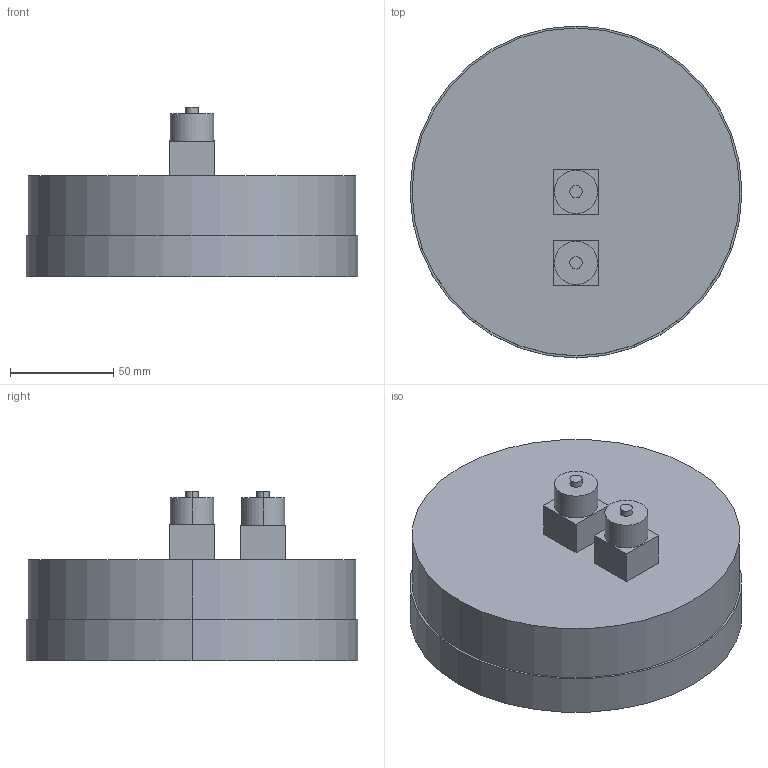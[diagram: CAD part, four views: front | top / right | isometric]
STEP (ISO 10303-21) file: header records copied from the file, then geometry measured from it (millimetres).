
FILE_DESCRIPTION (( 'STEP AP214' ), '1' );
FILE_NAME ('Manometr_puszkowy_roznicowy_x_0_3D_AFRISO.STEP', '2022-12-15T13:36:04', ( '' ), ( '' ), 'SwSTEP 2.0', 'SolidWorks 2022', '' );
FILE_SCHEMA (( 'AUTOMOTIVE_DESIGN' ));
Length unit declared in the file: millimetre
Products named in the file (1): Manometr_puszkowy_roznicowy_x_0_3D_AFRISO
Bounding box: 161 x 161 x 82 mm (x, y, z)
Volume: 1008542.2 mm3; surface area: 70127.8 mm2
Topology: 1 solids, 1 shells, 29 faces, 60 edges, 40 vertices
Faces by surface type: plane 17, cylinder 12
Entity records: 812 total; most frequent: DIRECTION 144, CARTESIAN_POINT 130, ORIENTED_EDGE 120, EDGE_CURVE 60, AXIS2_PLACEMENT_3D 54, VERTEX_POINT 40, EDGE_LOOP 36, VECTOR 36
